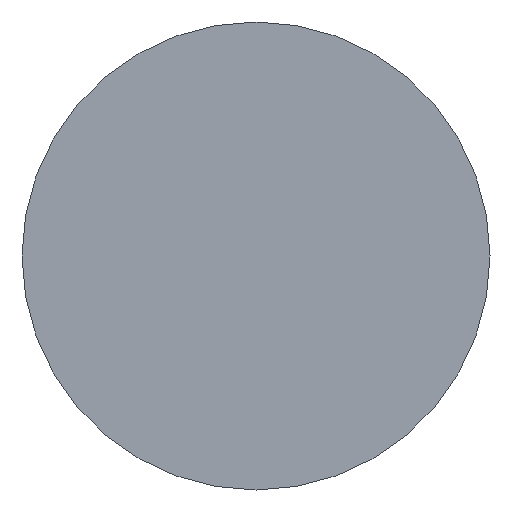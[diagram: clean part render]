
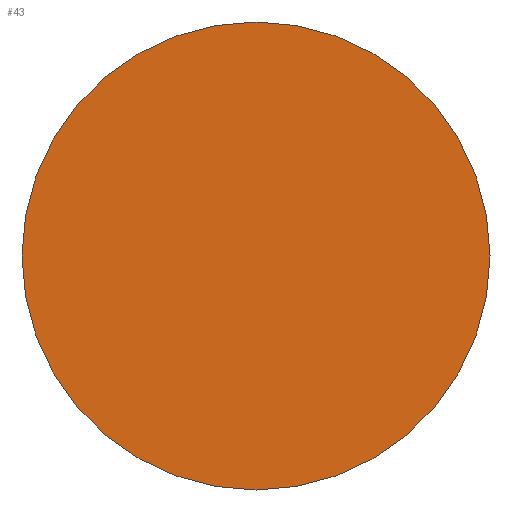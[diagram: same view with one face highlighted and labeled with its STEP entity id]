
A CAD part, left-side view. The second image highlights one B-rep face of the part: STEP entity #43.
In plain terms, the highlighted planar face has unit normal (-1, 0, 0).
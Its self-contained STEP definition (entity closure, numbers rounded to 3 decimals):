
#5 = CARTESIAN_POINT ( 'NONE',  ( 0., 0., 0. ) ) ;
#18 = AXIS2_PLACEMENT_3D ( 'NONE', #167, #224, #163 ) ;
#30 = VERTEX_POINT ( 'NONE', #111 ) ;
#43 = ADVANCED_FACE ( 'NONE', ( #230 ), #214, .T. ) ;
#44 = VERTEX_POINT ( 'NONE', #53 ) ;
#51 = CIRCLE ( 'NONE', #188, 6. ) ;
#53 = CARTESIAN_POINT ( 'NONE',  ( 0., -6., 0. ) ) ;
#65 = EDGE_CURVE ( 'NONE', #44, #30, #175, .T. ) ;
#72 = DIRECTION ( 'NONE',  ( -1., 0., 0. ) ) ;
#86 = DIRECTION ( 'NONE',  ( 0., 1., 0. ) ) ;
#103 = CARTESIAN_POINT ( 'NONE',  ( 0., 0., 0. ) ) ;
#111 = CARTESIAN_POINT ( 'NONE',  ( 0., 6., 0. ) ) ;
#113 = EDGE_LOOP ( 'NONE', ( #264, #229 ) ) ;
#163 = DIRECTION ( 'NONE',  ( 0., 1., 0. ) ) ;
#167 = CARTESIAN_POINT ( 'NONE',  ( 0., 0., 0. ) ) ;
#175 = CIRCLE ( 'NONE', #18, 6. ) ;
#181 = EDGE_CURVE ( 'NONE', #30, #44, #51, .T. ) ;
#188 = AXIS2_PLACEMENT_3D ( 'NONE', #103, #218, #86 ) ;
#198 = DIRECTION ( 'NONE',  ( 0., -1., 0. ) ) ;
#209 = AXIS2_PLACEMENT_3D ( 'NONE', #5, #72, #198 ) ;
#214 = PLANE ( 'NONE',  #209 ) ;
#218 = DIRECTION ( 'NONE',  ( 1., 0., 0. ) ) ;
#224 = DIRECTION ( 'NONE',  ( 1., 0., 0. ) ) ;
#229 = ORIENTED_EDGE ( 'NONE', *, *, #65, .F. ) ;
#230 = FACE_OUTER_BOUND ( 'NONE', #113, .T. ) ;
#264 = ORIENTED_EDGE ( 'NONE', *, *, #181, .F. ) ;
